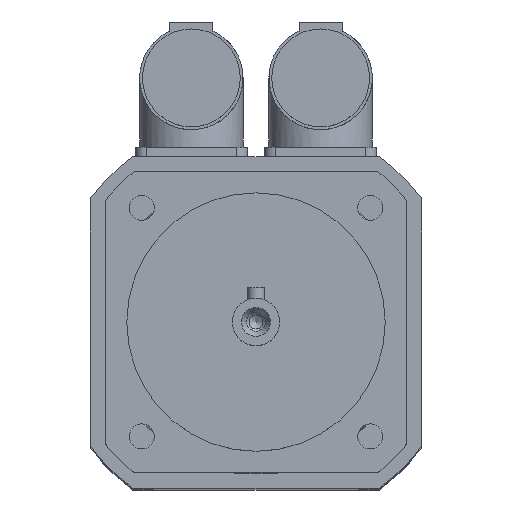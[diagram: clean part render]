
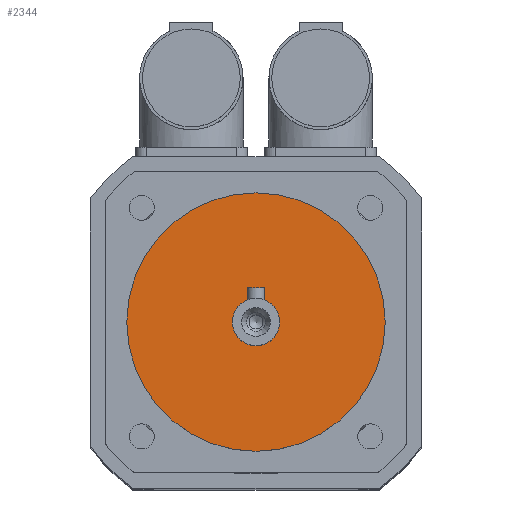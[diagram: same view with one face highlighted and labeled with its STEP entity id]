
A CAD part, top view. The second image highlights one B-rep face of the part: STEP entity #2344.
In plain terms, the highlighted planar face has unit normal (0, 0, 1).
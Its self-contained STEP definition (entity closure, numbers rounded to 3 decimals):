
#472=PLANE('',#2526);
#587=FACE_BOUND('',#805,.T.);
#653=FACE_OUTER_BOUND('',#804,.T.);
#804=EDGE_LOOP('',(#1839));
#805=EDGE_LOOP('',(#1840));
#951=CIRCLE('',#2525,5.5);
#952=CIRCLE('',#2527,30.);
#1114=VERTEX_POINT('',#3730);
#1115=VERTEX_POINT('',#3733);
#1385=EDGE_CURVE('',#1114,#1114,#951,.T.);
#1386=EDGE_CURVE('',#1115,#1115,#952,.T.);
#1839=ORIENTED_EDGE('',*,*,#1386,.F.);
#1840=ORIENTED_EDGE('',*,*,#1385,.T.);
#2344=ADVANCED_FACE('',(#653,#587),#472,.T.);
#2525=AXIS2_PLACEMENT_3D('',#3731,#2946,#2947);
#2526=AXIS2_PLACEMENT_3D('',#3732,#2948,#2949);
#2527=AXIS2_PLACEMENT_3D('',#3734,#2950,#2951);
#2946=DIRECTION('center_axis',(0.,0.,-1.));
#2947=DIRECTION('ref_axis',(1.,0.,0.));
#2948=DIRECTION('center_axis',(0.,0.,1.));
#2949=DIRECTION('ref_axis',(1.,0.,0.));
#2950=DIRECTION('center_axis',(0.,0.,-1.));
#2951=DIRECTION('ref_axis',(1.,0.,0.));
#3730=CARTESIAN_POINT('',(0.,5.5,216.5));
#3731=CARTESIAN_POINT('Origin',(0.,0.,216.5));
#3732=CARTESIAN_POINT('Origin',(0.,30.,216.5));
#3733=CARTESIAN_POINT('',(0.,30.,216.5));
#3734=CARTESIAN_POINT('Origin',(0.,0.,216.5));
